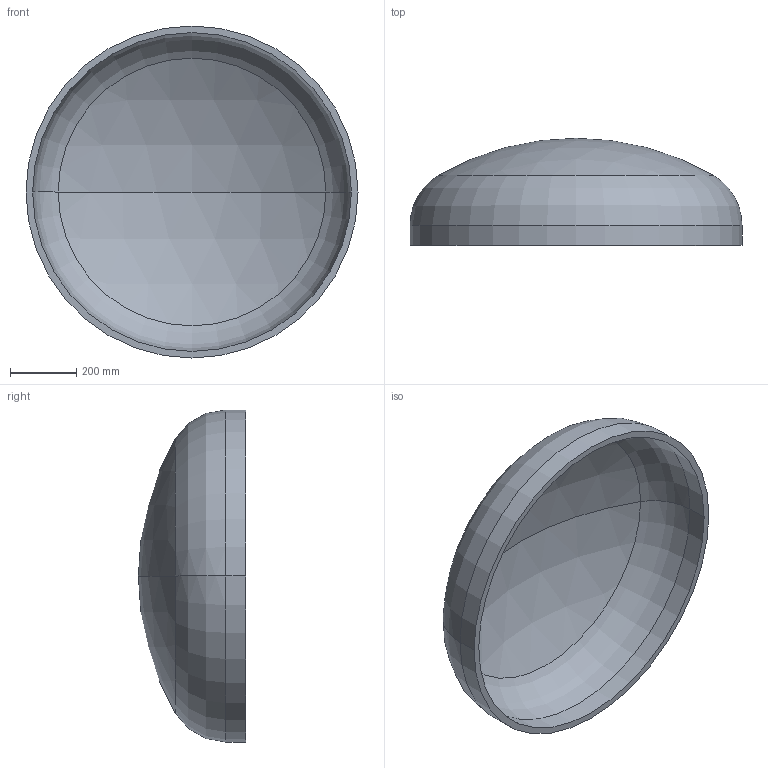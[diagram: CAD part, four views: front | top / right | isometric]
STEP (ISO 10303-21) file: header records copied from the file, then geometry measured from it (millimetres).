
FILE_DESCRIPTION (( 'STEP AP203' ), '1' );
FILE_NAME ('DIN 28013 Korbbogenform_-_Boden DIN 28013 - 1000 x 60 - I - s=20.step', '2016-07-01T08:44:15', ( '' ), ( '' ), 'SwSTEP 2.0', 'SolidWorks 2013', '' );
FILE_SCHEMA (( 'CONFIG_CONTROL_DESIGN' ));
Length unit declared in the file: millimetre
Products named in the file (1): DIN 28013 Korbbogenform_-_Boden DIN 28013 - 1000 x 60 - I - s=20
Bounding box: 1000 x 322.86 x 1000 mm (x, y, z)
Volume: 24911794.6 mm3; surface area: 2553591.6 mm2
Topology: 1 solids, 1 shells, 13 faces, 24 edges, 14 vertices
Faces by surface type: torus 4, cylinder 4, sphere 4, plane 1
Entity records: 407 total; most frequent: DIRECTION 72, CARTESIAN_POINT 52, ORIENTED_EDGE 48, AXIS2_PLACEMENT_3D 34, EDGE_CURVE 24, CIRCLE 20, VERTEX_POINT 14, EDGE_LOOP 14
